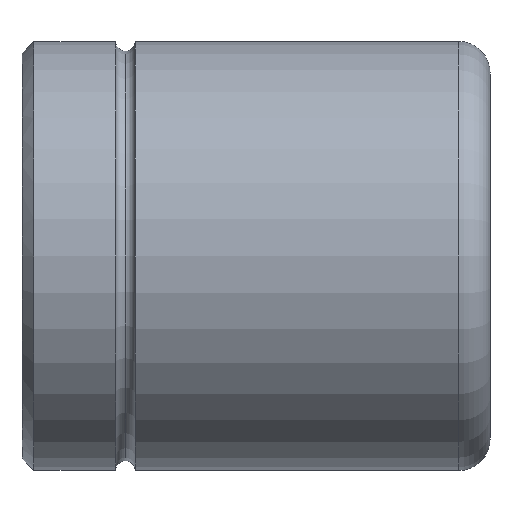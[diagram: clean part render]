
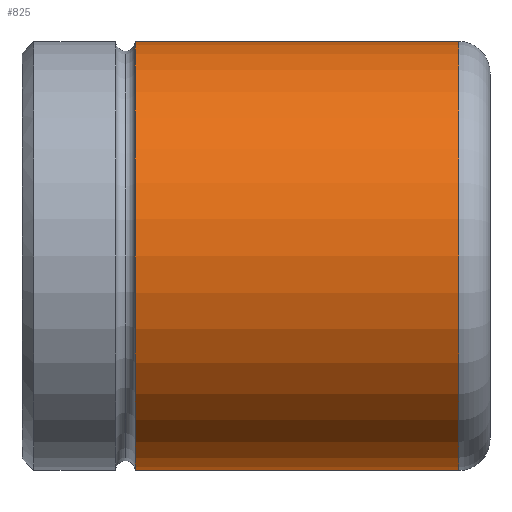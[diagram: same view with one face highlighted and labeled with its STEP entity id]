
A CAD part, front view. The second image highlights one B-rep face of the part: STEP entity #825.
In plain terms, the highlighted cylindrical face has radius 27.5 mm (diameter 55 mm), a partial arc.
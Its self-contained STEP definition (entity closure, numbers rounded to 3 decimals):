
#641=CARTESIAN_POINT('Vertex',(14.5,0.,27.5)) ;
#648=CARTESIAN_POINT('Vertex',(14.5,0.,-27.5)) ;
#674=CARTESIAN_POINT('Axis2P3D Location',(14.5,0.,0.)) ;
#678=CARTESIAN_POINT('Vertex',(14.5,-27.5,0.)) ;
#681=CARTESIAN_POINT('Axis2P3D Location',(14.5,0.,0.)) ;
#765=CARTESIAN_POINT('Line Origine',(60.,0.,27.5)) ;
#769=CARTESIAN_POINT('Vertex',(56.,0.,27.5)) ;
#783=CARTESIAN_POINT('Vertex',(56.,0.,-27.5)) ;
#786=CARTESIAN_POINT('Line Origine',(60.,0.,-27.5)) ;
#800=CARTESIAN_POINT('Axis2P3D Location',(60.,0.,0.)) ;
#805=CARTESIAN_POINT('Axis2P3D Location',(56.,0.,0.)) ;
#809=CARTESIAN_POINT('Vertex',(56.,-27.5,0.)) ;
#812=CARTESIAN_POINT('Axis2P3D Location',(56.,0.,0.)) ;
#675=DIRECTION('Axis2P3D Direction',(1.,0.,-0.)) ;
#682=DIRECTION('Axis2P3D Direction',(1.,0.,-0.)) ;
#766=DIRECTION('Vector Direction',(-1.,0.,0.)) ;
#787=DIRECTION('Vector Direction',(-1.,0.,0.)) ;
#801=DIRECTION('Axis2P3D Direction',(-1.,-0.,-0.)) ;
#802=DIRECTION('Axis2P3D XDirection',(0.,0.,-1.)) ;
#806=DIRECTION('Axis2P3D Direction',(-1.,-0.,-0.)) ;
#813=DIRECTION('Axis2P3D Direction',(-1.,-0.,-0.)) ;
#676=AXIS2_PLACEMENT_3D('Circle Axis2P3D',#674,#675,$) ;
#683=AXIS2_PLACEMENT_3D('Circle Axis2P3D',#681,#682,$) ;
#803=AXIS2_PLACEMENT_3D('Cylinder Axis2P3D',#800,#801,#802) ;
#807=AXIS2_PLACEMENT_3D('Circle Axis2P3D',#805,#806,$) ;
#814=AXIS2_PLACEMENT_3D('Circle Axis2P3D',#812,#813,$) ;
#818=ORIENTED_EDGE('',*,*,#790,.T.) ;
#819=ORIENTED_EDGE('',*,*,#811,.F.) ;
#820=ORIENTED_EDGE('',*,*,#816,.F.) ;
#821=ORIENTED_EDGE('',*,*,#771,.T.) ;
#822=ORIENTED_EDGE('',*,*,#685,.T.) ;
#823=ORIENTED_EDGE('',*,*,#680,.T.) ;
#767=VECTOR('Line Direction',#766,1.) ;
#788=VECTOR('Line Direction',#787,1.) ;
#825=ADVANCED_FACE('347-41 x 60',(#824),#804,.T.) ;
#677=CIRCLE('generated circle',#676,27.5) ;
#684=CIRCLE('generated circle',#683,27.5) ;
#808=CIRCLE('generated circle',#807,27.5) ;
#815=CIRCLE('generated circle',#814,27.5) ;
#804=CYLINDRICAL_SURFACE('generated cylinder',#803,27.5) ;
#680=EDGE_CURVE('',#679,#649,#677,.T.) ;
#685=EDGE_CURVE('',#642,#679,#684,.T.) ;
#771=EDGE_CURVE('',#770,#642,#768,.T.) ;
#790=EDGE_CURVE('',#649,#784,#789,.F.) ;
#811=EDGE_CURVE('',#810,#784,#808,.F.) ;
#816=EDGE_CURVE('',#770,#810,#815,.F.) ;
#817=EDGE_LOOP('',(#818,#819,#820,#821,#822,#823)) ;
#824=FACE_OUTER_BOUND('',#817,.T.) ;
#768=LINE('Line',#765,#767) ;
#789=LINE('Line',#786,#788) ;
#642=VERTEX_POINT('',#641) ;
#649=VERTEX_POINT('',#648) ;
#679=VERTEX_POINT('',#678) ;
#770=VERTEX_POINT('',#769) ;
#784=VERTEX_POINT('',#783) ;
#810=VERTEX_POINT('',#809) ;
